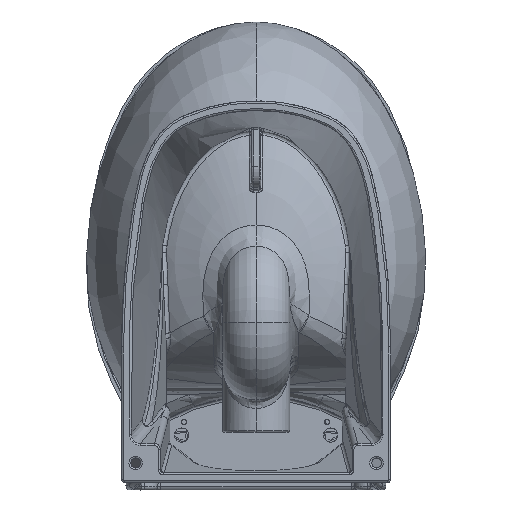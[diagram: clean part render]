
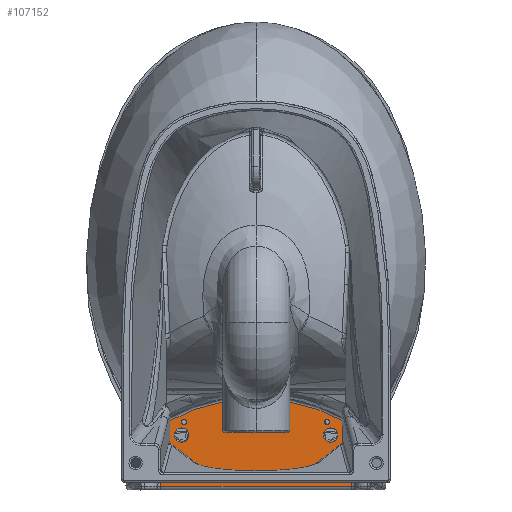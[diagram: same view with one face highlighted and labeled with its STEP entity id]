
A CAD part, front view. The second image highlights one B-rep face of the part: STEP entity #107152.
In plain terms, the highlighted planar face has unit normal (0, -1, 0).
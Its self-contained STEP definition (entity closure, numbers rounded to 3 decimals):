
#703 = VERTEX_POINT ( 'NONE', #125157 ) ;
#2771 = DIRECTION ( 'NONE',  ( 1., 0., 0. ) ) ;
#9880 = CARTESIAN_POINT ( 'NONE',  ( 44.85, 212.978, -233.362 ) ) ;
#12642 = VERTEX_POINT ( 'NONE', #58676 ) ;
#16353 = EDGE_LOOP ( 'NONE', ( #188000, #72265 ) ) ;
#16998 = AXIS2_PLACEMENT_3D ( 'NONE', #189435, #144076, #83595 ) ;
#18060 = CARTESIAN_POINT ( 'NONE',  ( -153.182, 212.978, -244.03 ) ) ;
#19735 = EDGE_CURVE ( 'NONE', #152313, #703, #116606, .T. ) ;
#20173 = CARTESIAN_POINT ( 'NONE',  ( -131.477, 212.978, -183.53 ) ) ;
#21414 = DIRECTION ( 'NONE',  ( 0., -1., 0. ) ) ;
#23246 = AXIS2_PLACEMENT_3D ( 'NONE', #131658, #176015, #39932 ) ;
#26754 = EDGE_CURVE ( 'NONE', #12642, #196792, #39880, .T. ) ;
#33499 = AXIS2_PLACEMENT_3D ( 'NONE', #129949, #99694, #113828 ) ;
#37180 = EDGE_CURVE ( 'NONE', #195250, #139474, #61310, .T. ) ;
#39522 = DIRECTION ( 'NONE',  ( 0., -1., 0. ) ) ;
#39880 = CIRCLE ( 'NONE', #33499, 7.5 ) ;
#39932 = DIRECTION ( 'NONE',  ( 1., 0., 0. ) ) ;
#44922 = AXIS2_PLACEMENT_3D ( 'NONE', #116125, #21414, #82895 ) ;
#51676 = DIRECTION ( 'NONE',  ( 1., 0., 0. ) ) ;
#52494 = CARTESIAN_POINT ( 'NONE',  ( 45.228, 212.978, -244.03 ) ) ;
#56215 = DIRECTION ( 'NONE',  ( 0., -1., 0. ) ) ;
#58011 = DIRECTION ( 'NONE',  ( 0., -1., 0. ) ) ;
#58676 = CARTESIAN_POINT ( 'NONE',  ( 23.523, 212.978, -198.53 ) ) ;
#61310 = LINE ( 'NONE', #109627, #98545 ) ;
#62252 = EDGE_CURVE ( 'NONE', #80010, #89632, #199319, .T. ) ;
#64268 = EDGE_LOOP ( 'NONE', ( #145286, #154322 ) ) ;
#66324 = CIRCLE ( 'NONE', #162863, 7.5 ) ;
#67578 = CARTESIAN_POINT ( 'NONE',  ( -148.018, 212.978, -177.999 ) ) ;
#71371 = CARTESIAN_POINT ( 'NONE',  ( 42.942, 212.978, -179.388 ) ) ;
#72265 = ORIENTED_EDGE ( 'NONE', *, *, #131620, .F. ) ;
#73148 = ORIENTED_EDGE ( 'NONE', *, *, #133634, .T. ) ;
#80010 = VERTEX_POINT ( 'NONE', #172929 ) ;
#80614 = FACE_OUTER_BOUND ( 'NONE', #117274, .T. ) ;
#82592 = FACE_BOUND ( 'NONE', #64268, .T. ) ;
#82895 = DIRECTION ( 'NONE',  ( 1., 0., 0. ) ) ;
#83534 = AXIS2_PLACEMENT_3D ( 'NONE', #84025, #175736, #115249 ) ;
#83595 = DIRECTION ( 'NONE',  ( 1., 0., 0. ) ) ;
#84025 = CARTESIAN_POINT ( 'NONE',  ( 51.474, 212.978, -158.029 ) ) ;
#87471 = CARTESIAN_POINT ( 'NONE',  ( 44.473, 212.978, -222.694 ) ) ;
#89632 = VERTEX_POINT ( 'NONE', #195631 ) ;
#91744 = AXIS2_PLACEMENT_3D ( 'NONE', #195251, #56215, #102560 ) ;
#93242 = ORIENTED_EDGE ( 'NONE', *, *, #147128, .T. ) ;
#98545 = VECTOR ( 'NONE', #2771, 1000. ) ;
#99694 = DIRECTION ( 'NONE',  ( 0., -1., 0. ) ) ;
#102560 = DIRECTION ( 'NONE',  ( 1., 0., 0. ) ) ;
#102596 = CARTESIAN_POINT ( 'NONE',  ( 44.095, 212.978, -212.026 ) ) ;
#105970 = CARTESIAN_POINT ( 'NONE',  ( -152.231, 212.978, -217.154 ) ) ;
#107152 = ADVANCED_FACE ( 'NONE', ( #82592, #125976, #80614 ), #111849, .T. ) ;
#109627 = CARTESIAN_POINT ( 'NONE',  ( 45.369, 212.978, -244.03 ) ) ;
#109956 = CARTESIAN_POINT ( 'NONE',  ( -150.897, 212.978, -179.388 ) ) ;
#111849 = PLANE ( 'NONE',  #16998 ) ;
#112293 = AXIS2_PLACEMENT_3D ( 'NONE', #131632, #58011, #161853 ) ;
#113828 = DIRECTION ( 'NONE',  ( 1., 0., 0. ) ) ;
#115249 = DIRECTION ( 'NONE',  ( 1., 0., 0. ) ) ;
#116125 = CARTESIAN_POINT ( 'NONE',  ( -53.977, 212.978, -342.601 ) ) ;
#116606 = CIRCLE ( 'NONE', #23246, 23. ) ;
#117274 = EDGE_LOOP ( 'NONE', ( #73148, #166867, #93242, #186367, #145891, #181234 ) ) ;
#120646 = CARTESIAN_POINT ( 'NONE',  ( 43.326, 212.978, -190.268 ) ) ;
#122349 = B_SPLINE_CURVE_WITH_KNOTS ( 'NONE', 3,
 ( #109956, #155287, #138185, #105970, #183528, #124057, #152287 ),
 .UNSPECIFIED., .F., .F.,
 ( 4, 3, 4 ),
 ( 0.003, 0.041, 0.068 ),
 .UNSPECIFIED. ) ;
#123744 = B_SPLINE_CURVE_WITH_KNOTS ( 'NONE', 3,
 ( #197244, #9880, #87471, #102596, #132835, #120646, #71371 ),
 .UNSPECIFIED., .F., .F.,
 ( 4, 3, 4 ),
 ( 0.004, 0.036, 0.069 ),
 .UNSPECIFIED. ) ;
#124057 = CARTESIAN_POINT ( 'NONE',  ( -152.865, 212.978, -235.071 ) ) ;
#125157 = CARTESIAN_POINT ( 'NONE',  ( -150.897, 212.978, -179.388 ) ) ;
#125976 = FACE_BOUND ( 'NONE', #16353, .T. ) ;
#129949 = CARTESIAN_POINT ( 'NONE',  ( 23.523, 212.978, -191.03 ) ) ;
#131620 = EDGE_CURVE ( 'NONE', #183420, #164305, #199154, .T. ) ;
#131632 = CARTESIAN_POINT ( 'NONE',  ( -131.477, 212.978, -191.03 ) ) ;
#131658 = CARTESIAN_POINT ( 'NONE',  ( -159.427, 212.978, -158.029 ) ) ;
#132234 = CARTESIAN_POINT ( 'NONE',  ( 23.523, 212.978, -191.03 ) ) ;
#132835 = CARTESIAN_POINT ( 'NONE',  ( 43.711, 212.978, -201.147 ) ) ;
#133634 = EDGE_CURVE ( 'NONE', #89632, #152313, #173714, .T. ) ;
#138185 = CARTESIAN_POINT ( 'NONE',  ( -151.786, 212.978, -204.566 ) ) ;
#139474 = VERTEX_POINT ( 'NONE', #52494 ) ;
#143281 = CIRCLE ( 'NONE', #91744, 7.5 ) ;
#144076 = DIRECTION ( 'NONE',  ( 0., -1., 0. ) ) ;
#145286 = ORIENTED_EDGE ( 'NONE', *, *, #196734, .F. ) ;
#145891 = ORIENTED_EDGE ( 'NONE', *, *, #184720, .T. ) ;
#147128 = EDGE_CURVE ( 'NONE', #703, #195250, #122349, .T. ) ;
#152287 = CARTESIAN_POINT ( 'NONE',  ( -153.182, 212.978, -244.03 ) ) ;
#152313 = VERTEX_POINT ( 'NONE', #67578 ) ;
#154322 = ORIENTED_EDGE ( 'NONE', *, *, #26754, .F. ) ;
#155287 = CARTESIAN_POINT ( 'NONE',  ( -151.341, 212.978, -191.977 ) ) ;
#161853 = DIRECTION ( 'NONE',  ( 1., 0., 0. ) ) ;
#162863 = AXIS2_PLACEMENT_3D ( 'NONE', #132234, #39522, #51676 ) ;
#164305 = VERTEX_POINT ( 'NONE', #20173 ) ;
#166867 = ORIENTED_EDGE ( 'NONE', *, *, #19735, .T. ) ;
#172929 = CARTESIAN_POINT ( 'NONE',  ( 42.942, 212.978, -179.388 ) ) ;
#173371 = CARTESIAN_POINT ( 'NONE',  ( 23.523, 212.978, -183.53 ) ) ;
#173714 = CIRCLE ( 'NONE', #44922, 189.572 ) ;
#175736 = DIRECTION ( 'NONE',  ( 0., 1., 0. ) ) ;
#176015 = DIRECTION ( 'NONE',  ( 0., 1., 0. ) ) ;
#181234 = ORIENTED_EDGE ( 'NONE', *, *, #62252, .T. ) ;
#183420 = VERTEX_POINT ( 'NONE', #197896 ) ;
#183528 = CARTESIAN_POINT ( 'NONE',  ( -152.548, 212.978, -226.113 ) ) ;
#184720 = EDGE_CURVE ( 'NONE', #139474, #80010, #123744, .T. ) ;
#186367 = ORIENTED_EDGE ( 'NONE', *, *, #37180, .T. ) ;
#188000 = ORIENTED_EDGE ( 'NONE', *, *, #193357, .F. ) ;
#189435 = CARTESIAN_POINT ( 'NONE',  ( 72.056, 212.978, -48.03 ) ) ;
#193357 = EDGE_CURVE ( 'NONE', #164305, #183420, #143281, .T. ) ;
#195250 = VERTEX_POINT ( 'NONE', #18060 ) ;
#195251 = CARTESIAN_POINT ( 'NONE',  ( -131.477, 212.978, -191.03 ) ) ;
#195631 = CARTESIAN_POINT ( 'NONE',  ( 40.065, 212.978, -178. ) ) ;
#196734 = EDGE_CURVE ( 'NONE', #196792, #12642, #66324, .T. ) ;
#196792 = VERTEX_POINT ( 'NONE', #173371 ) ;
#197244 = CARTESIAN_POINT ( 'NONE',  ( 45.228, 212.978, -244.03 ) ) ;
#197896 = CARTESIAN_POINT ( 'NONE',  ( -131.477, 212.978, -198.53 ) ) ;
#199154 = CIRCLE ( 'NONE', #112293, 7.5 ) ;
#199319 = CIRCLE ( 'NONE', #83534, 23. ) ;
